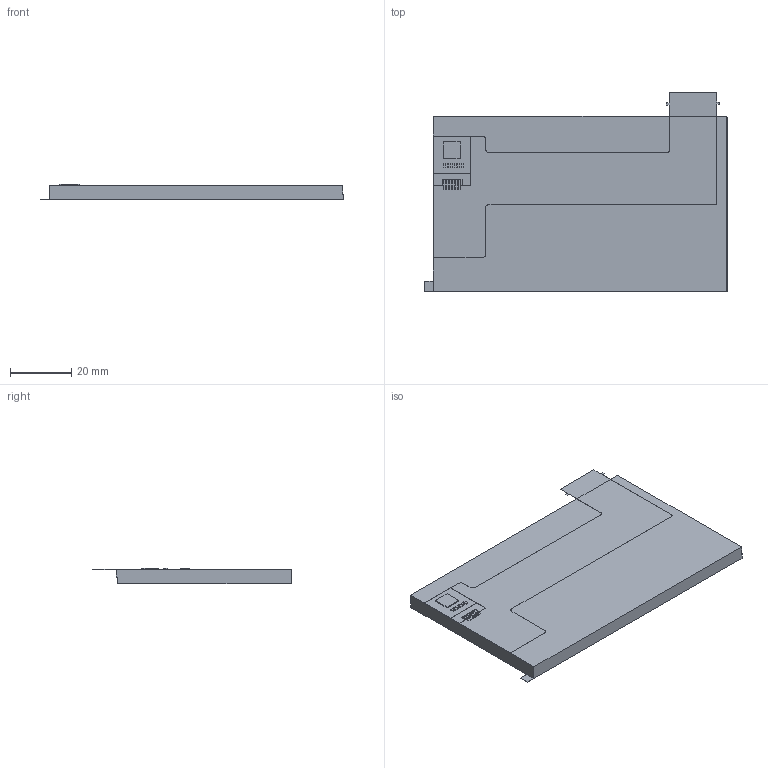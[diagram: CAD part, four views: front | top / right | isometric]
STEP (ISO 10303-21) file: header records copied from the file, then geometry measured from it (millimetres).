
FILE_DESCRIPTION(('FreeCAD Model'),'2;1');
FILE_NAME('Open CASCADE Shape Model','2026-05-19T18:18:42',(''),(''), 'Open CASCADE STEP processor 7.8','FreeCAD','Unknown');
FILE_SCHEMA(('AUTOMOTIVE_DESIGN { 1 0 10303 214 1 1 1 1 }'));
Length unit declared in the file: millimetre
Products named in the file (1): Body
Bounding box: 98.93 x 64.9 x 5.19 mm (x, y, z)
Volume: 24368.6 mm3; surface area: 22444.2 mm2
Topology: 1 solids, 2 shells, 151 faces, 401 edges, 265 vertices
Faces by surface type: plane 145, cylinder 6
Entity records: 4639 total; most frequent: CARTESIAN_POINT 818, ORIENTED_EDGE 802, DIRECTION 717, EDGE_CURVE 401, LINE 389, VECTOR 389, VERTEX_POINT 265, FACE_BOUND 176
